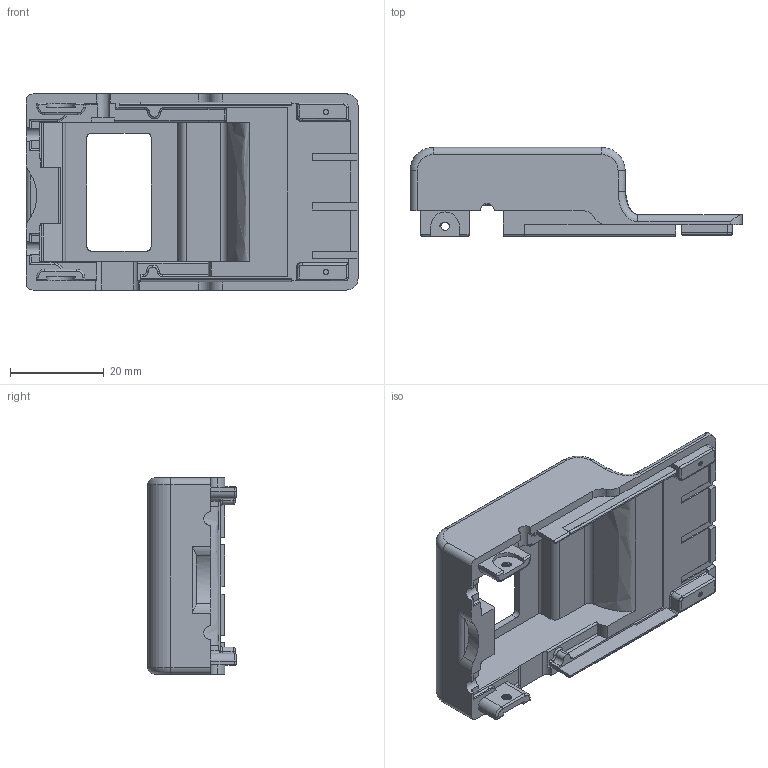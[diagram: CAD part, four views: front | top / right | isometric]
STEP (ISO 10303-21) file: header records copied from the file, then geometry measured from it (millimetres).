
FILE_DESCRIPTION (( 'STEP AP214' ), '1' );
FILE_NAME ('V11.2.2_Kenny_Hawktec_Tray.STEP', '2026-07-24T02:07:28', ( '' ), ( '' ), 'SwSTEP 2.0', 'SolidWorks 2025', '' );
FILE_SCHEMA (( 'AUTOMOTIVE_DESIGN' ));
Length unit declared in the file: millimetre
Products named in the file (1): V11.2.2_Kenny_Hawktec_Tray
Bounding box: 71 x 19 x 41.95 mm (x, y, z)
Volume: 14765.1 mm3; surface area: 10593.5 mm2
Topology: 1 solids, 2 shells, 332 faces, 896 edges, 569 vertices
Faces by surface type: cylinder 145, plane 143, torus 26, bspline 17, sphere 1
Entity records: 12483 total; most frequent: CARTESIAN_POINT 4362, ORIENTED_EDGE 1790, DIRECTION 1624, EDGE_CURVE 895, VERTEX_POINT 569, AXIS2_PLACEMENT_3D 549, LINE 526, VECTOR 526
